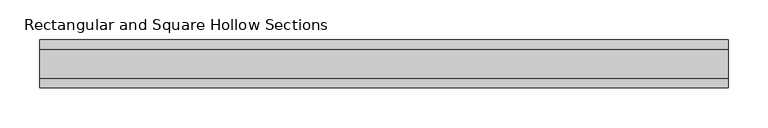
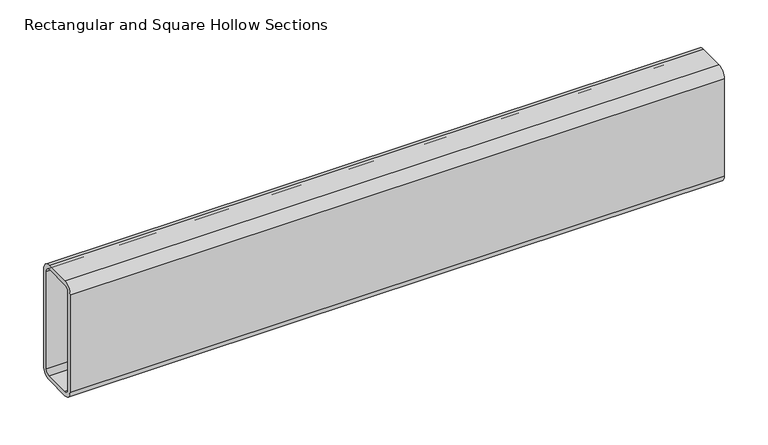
"""IFC4 building model written with IfcOpenShell, lengths in millimetres: beam geometry, Rectangular and Square Hollow Sections : TREC160x60x6."""

import ifcopenshell
import ifcopenshell.guid

model = None  # the IFC model being written
_history = None  # IfcOwnerHistory: only IFC2X3 demands one
_inside = {}  # id of a spatial element -> (the spatial element, [elements in it])
_under = {}  # id of a project, library or spatial element -> (it, [spatial elements below it])
_declared = {}  # id of a project -> (the project, [libraries it declares])
_typed = {}  # id of a type object -> (the type object, [elements of that type])
_made_of = {}  # id of a material, layer set ... -> (it, [elements and type objects made of it])


def new_model(schema):
    """Start an empty IFC model of exactly this schema.

    Asked for "IFC4X3", IfcOpenShell would pick the latest addendum, in which some entities
    have other attributes; the version numbers below select the first issue.
    IFC2X3 requires an IfcOwnerHistory on every rooted entity: one is made here for all.
    """
    global model, _history
    if schema == "IFC4X3":
        model = ifcopenshell.file(schema_version=(4, 3, 0, 0))
    else:
        model = ifcopenshell.file(schema=schema)
    _inside.clear()
    _under.clear()
    _declared.clear()
    _typed.clear()
    _made_of.clear()
    _history = None
    if model.schema == "IFC2X3":
        org = make("IfcOrganization", Name="unknown")
        user = make(
            "IfcPersonAndOrganization",
            ThePerson=make("IfcPerson", FamilyName="unknown"),
            TheOrganization=org,
        )
        app = make(
            "IfcApplication",
            ApplicationDeveloper=org,
            Version="unknown",
            ApplicationFullName="unknown",
            ApplicationIdentifier="unknown",
        )
        _history = make(
            "IfcOwnerHistory",
            OwningUser=user,
            OwningApplication=app,
            ChangeAction="ADDED",
            CreationDate=0,
        )
    return model


def make(cls, **values):
    """One entity of the class cls with the attributes given. An attribute that is None is left unset."""
    return model.create_entity(
        cls, **{name: value for name, value in values.items() if value is not None}
    )


def rooted(cls, **values):
    """An entity with a GlobalId (a new one), such as an element, a storey or a relation."""
    return make(cls, GlobalId=ifcopenshell.guid.new(), OwnerHistory=_history, **values)


def si_unit(unit_type, name, prefix=None):
    """IfcSIUnit, for example si_unit("LENGTHUNIT", "METRE", prefix="MILLI")."""
    return make("IfcSIUnit", UnitType=unit_type, Prefix=prefix, Name=name)


def assignment(units):
    """IfcUnitAssignment: the units of a project."""
    return None if units is None else make("IfcUnitAssignment", Units=units)


def point(xyz):
    """IfcCartesianPoint."""
    return None if xyz is None else make("IfcCartesianPoint", Coordinates=xyz)


def direction(xyz):
    """IfcDirection."""
    return None if xyz is None else make("IfcDirection", DirectionRatios=xyz)


def frame(location, z_axis=None, x_axis=None):
    """IfcAxis2Placement3D, a coordinate frame: its origin and axes. An axis left out is left unset."""
    return make(
        "IfcAxis2Placement3D",
        Location=point(location),
        Axis=direction(z_axis),
        RefDirection=direction(x_axis),
    )


def frame_2d(location, x_axis=None):
    """IfcAxis2Placement2D, a coordinate frame in the plane: its origin and x axis."""
    return make(
        "IfcAxis2Placement2D", Location=point(location), RefDirection=direction(x_axis)
    )


def origin():
    """The frame at (0, 0, 0) with its axes left unset."""
    return frame((0.0, 0.0, 0.0))


def place(relative_to, where):
    """IfcLocalPlacement: puts the frame where relative to a parent placement (None: the world)."""
    return make(
        "IfcLocalPlacement", PlacementRelTo=relative_to, RelativePlacement=where
    )


def context(
    kind, dimensions, precision=None, world=None, true_north=None, identifier=None
):
    """IfcGeometricRepresentationContext, for example the 3D "Model" context."""
    return make(
        "IfcGeometricRepresentationContext",
        ContextIdentifier=identifier,
        ContextType=kind,
        CoordinateSpaceDimension=dimensions,
        Precision=precision,
        WorldCoordinateSystem=world,
        TrueNorth=true_north,
    )


def project(units=None, contexts=None):
    """IfcProject with its units and contexts."""
    return rooted(
        "IfcProject",
        Name="project",
        RepresentationContexts=contexts,
        UnitsInContext=assignment(units),
    )


def spatial(cls, under=None, at=None, **own):
    """A site, building, storey or space (cls), placed at a placement, below another one or the project."""
    s = rooted(cls, ObjectPlacement=at, **own)
    if under is not None:
        _under.setdefault(under.id(), (under, []))[1].append(s)
    return s


def polyline(points):
    """IfcPolyline through the points."""
    return make("IfcPolyline", Points=[point(p) for p in points])


def circle_curve(where, radius):
    """IfcCircle in the frame where."""
    return make("IfcCircle", Position=where, Radius=radius)


def trimmed(basis, trim1, trim2, sense, master):
    """IfcTrimmedCurve: the piece of a basis curve between two trims."""
    return make(
        "IfcTrimmedCurve",
        BasisCurve=basis,
        Trim1=trim1,
        Trim2=trim2,
        SenseAgreement=sense,
        MasterRepresentation=master,
    )


def segment(curve, same_sense, transition):
    """IfcCompositeCurveSegment."""
    return make(
        "IfcCompositeCurveSegment",
        Transition=transition,
        SameSense=same_sense,
        ParentCurve=curve,
    )


def composite_curve(segments, self_intersect=None):
    """IfcCompositeCurve: segments joined end to end."""
    return make("IfcCompositeCurve", Segments=segments, SelfIntersect=self_intersect)


def outline(outer, holes=None, kind="AREA"):
    """IfcArbitraryClosedProfileDef: a profile drawn as a closed curve; with holes, ...WithVoids."""
    if holes is None:
        return make("IfcArbitraryClosedProfileDef", ProfileType=kind, OuterCurve=outer)
    return make(
        "IfcArbitraryProfileDefWithVoids",
        ProfileType=kind,
        OuterCurve=outer,
        InnerCurves=holes,
    )


def extrude(swept, where, along, depth):
    """IfcExtrudedAreaSolid: the profile swept, set in the frame where, extruded along a direction by depth."""
    return make(
        "IfcExtrudedAreaSolid",
        SweptArea=swept,
        Position=where,
        ExtrudedDirection=direction(along),
        Depth=depth,
    )


def shape(context_of_items, identifier, shape_type, items):
    """IfcShapeRepresentation: the items that make up one representation, for example the "Body"."""
    return make(
        "IfcShapeRepresentation",
        ContextOfItems=context_of_items,
        RepresentationIdentifier=identifier,
        RepresentationType=shape_type,
        Items=items,
    )


def source(mapping_origin, context_of_items, identifier, shape_type, items):
    """IfcRepresentationMap: a shape defined once, which mapped items show again and again."""
    return make(
        "IfcRepresentationMap",
        MappingOrigin=mapping_origin,
        MappedRepresentation=shape(context_of_items, identifier, shape_type, items),
    )


def transform(
    local_origin,
    x_axis=None,
    y_axis=None,
    z_axis=None,
    scale=None,
    scale2=None,
    scale3=None,
    uniform=True,
):
    """IfcCartesianTransformationOperator3D, or its non-uniform kind. x_axis, y_axis, z_axis: its Axis1, 2, 3."""
    if uniform:
        return make(
            "IfcCartesianTransformationOperator3D",
            Axis1=direction(x_axis),
            Axis2=direction(y_axis),
            LocalOrigin=point(local_origin),
            Scale=scale,
            Axis3=direction(z_axis),
        )
    return make(
        "IfcCartesianTransformationOperator3DnonUniform",
        Axis1=direction(x_axis),
        Axis2=direction(y_axis),
        LocalOrigin=point(local_origin),
        Scale=scale,
        Axis3=direction(z_axis),
        Scale2=scale2,
        Scale3=scale3,
    )


def mapped(mapping_source, mapping_target):
    """IfcMappedItem: shows the shape of a source again, moved by a transform."""
    return make(
        "IfcMappedItem", MappingSource=mapping_source, MappingTarget=mapping_target
    )


def made_of(thing, what):
    """Note that an element or type object is made of a material, layer set ...; save() writes the relation."""
    if what is not None:
        _made_of.setdefault(what.id(), (what, []))[1].append(thing)
    return thing


def element(
    cls,
    number,
    at=None,
    inside=None,
    cuts=None,
    type_object=None,
    material=None,
    context=None,
    identifier="Body",
    shape_type=None,
    held_by="IfcProductDefinitionShape",
    body=None,
    shapes=None,
    **own,
):
    """One element of the class cls, such as IfcWall. Its Tag is "e" and its number.

    at: its placement. inside: the storey or other place that contains it. cuts: it is an
    opening in that element (IfcRelVoidsElement). A single representation is given by context,
    identifier, shape_type and body (its items); several are given by shapes. held_by: the class
    of the entity that holds the representations. save() writes the other relations.
    """
    e = rooted(cls, Tag="e%d" % number, ObjectPlacement=at, **own)
    if body is not None:
        shapes = [shape(context, identifier, shape_type, body)]
    if shapes is not None:
        e.Representation = make(held_by, Representations=shapes)
    if inside is not None:
        _inside.setdefault(inside.id(), (inside, []))[1].append(e)
    if cuts is not None:
        rooted(
            "IfcRelVoidsElement", RelatingBuildingElement=cuts, RelatedOpeningElement=e
        )
    if type_object is not None:
        _typed.setdefault(type_object.id(), (type_object, []))[1].append(e)
    return made_of(e, material)


def aggregate(whole, parts):
    """IfcRelAggregates: a whole, such as a stair, and the parts it consists of."""
    return rooted("IfcRelAggregates", RelatingObject=whole, RelatedObjects=parts)


def save(model, path):
    """Write the relations noted so far, then the file.

    IfcRelAggregates (storeys below a building ...), IfcRelContainedInSpatialStructure (elements
    in a storey), IfcRelDefinesByType, IfcRelAssociatesMaterial and IfcRelDeclares: one each for
    every whole, place, type object, material and project.
    """
    for whole, parts in _under.values():
        aggregate(whole, parts)
    for where, things in _inside.values():
        rooted(
            "IfcRelContainedInSpatialStructure",
            RelatedElements=things,
            RelatingStructure=where,
        )
    for kind, things in _typed.values():
        rooted("IfcRelDefinesByType", RelatedObjects=things, RelatingType=kind)
    for what, things in _made_of.values():
        rooted("IfcRelAssociatesMaterial", RelatedObjects=things, RelatingMaterial=what)
    for by, libraries in _declared.values():
        rooted("IfcRelDeclares", RelatingContext=by, RelatedDefinitions=libraries)
    model.write(path)


def rectangular_and_square_hollow_sections_b76d7205(model_context):
    return source(origin(), model_context, "Body", "SweptSolid", [
        extrude(outline(composite_curve([segment(polyline([(30.0, 68.0), (30.0, -68.0)]), True, "CONTINUOUS"), segment(trimmed(circle_curve(frame_2d((18.0, -68.0)), 12.0), [point((30.0, -68.0))], [point((18.0, -80.0))], False, "CARTESIAN"), True, "CONTINUOUS"), segment(polyline([(18.0, -80.0), (-18.0, -80.0)]), True, "CONTINUOUS"), segment(trimmed(circle_curve(frame_2d((-18.0, -68.0)), 12.0), [point((-18.0, -80.0))], [point((-30.0, -68.0))], False, "CARTESIAN"), True, "CONTINUOUS"), segment(polyline([(-30.0, -68.0), (-30.0, 68.0)]), True, "CONTINUOUS"), segment(trimmed(circle_curve(frame_2d((-18.0, 68.0)), 12.0), [point((-30.0, 68.0))], [point((-18.0, 80.0))], False, "CARTESIAN"), True, "CONTINUOUS"), segment(polyline([(-18.0, 80.0), (18.0, 80.0)]), True, "CONTINUOUS"), segment(trimmed(circle_curve(frame_2d((18.0, 68.0)), 12.0), [point((18.0, 80.0))], [point((30.0, 68.0))], False, "CARTESIAN"), True, "CONTINUOUS")], self_intersect=False), holes=[composite_curve([segment(trimmed(circle_curve(frame_2d((-18.0, 68.0)), 6.0), [point((-18.0, 74.0))], [point((-24.0, 68.0))], True, "CARTESIAN"), True, "CONTINUOUS"), segment(polyline([(-24.0, 68.0), (-24.0, -68.0)]), True, "CONTINUOUS"), segment(trimmed(circle_curve(frame_2d((-18.0, -68.0)), 6.0), [point((-24.0, -68.0))], [point((-18.0, -74.0))], True, "CARTESIAN"), True, "CONTINUOUS"), segment(polyline([(-18.0, -74.0), (18.0, -74.0)]), True, "CONTINUOUS"), segment(trimmed(circle_curve(frame_2d((18.0, -68.0)), 6.0), [point((18.0, -74.0))], [point((24.0, -68.0))], True, "CARTESIAN"), True, "CONTINUOUS"), segment(polyline([(24.0, -68.0), (24.0, 68.0)]), True, "CONTINUOUS"), segment(trimmed(circle_curve(frame_2d((18.0, 68.0)), 6.0), [point((24.0, 68.0))], [point((18.0, 74.0))], True, "CARTESIAN"), True, "CONTINUOUS"), segment(polyline([(18.0, 74.0), (-18.0, 74.0)]), True, "CONTINUOUS")], self_intersect=False)]), frame((-551.5, 0.0, 0.0), z_axis=(1.0, 0.0, 0.0), x_axis=(0.0, 1.0, 0.0)), (0.0, 0.0, 1.0), 862.0),
    ])


if __name__ == "__main__":
    model = new_model("IFC4")
    model_context = context("Model", 3, world=origin())
    ifc_project = project(units=[si_unit("LENGTHUNIT", "METRE", prefix="MILLI")], contexts=[model_context])
    site = spatial("IfcSite", under=ifc_project)
    building = spatial("IfcBuilding", under=site)
    placement = place(None, origin())
    rectangular_and_square_hollow_sections_shape = rectangular_and_square_hollow_sections_b76d7205(model_context)
    element("IfcBeam", 1, ObjectType="Rectangular and Square Hollow Sections : TREC160x60x6", at=placement, inside=building, context=model_context, shape_type="MappedRepresentation", body=[
        mapped(rectangular_and_square_hollow_sections_shape, transform((0.0, 0.0, 0.0), x_axis=(1.0, 0.0, 0.0), y_axis=(0.0, 1.0, 0.0), z_axis=(0.0, 0.0, 1.0))),
    ])
    save(model, "model.ifc")
